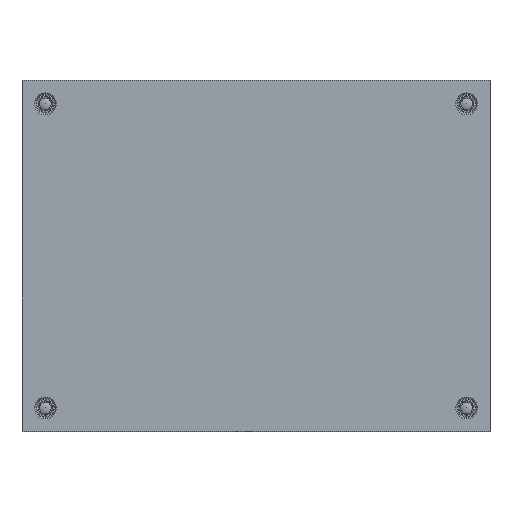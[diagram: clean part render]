
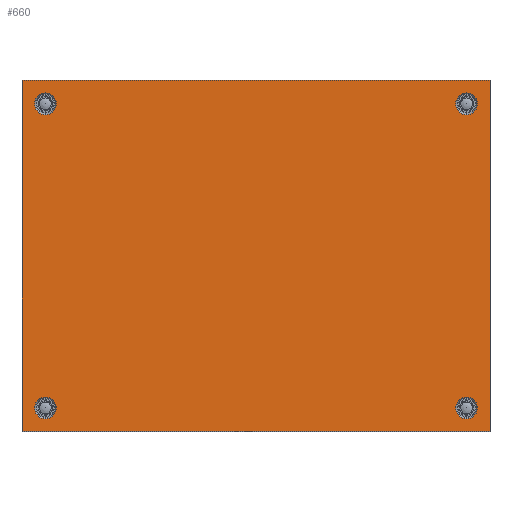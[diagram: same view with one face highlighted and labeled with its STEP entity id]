
A CAD part, top view. The second image highlights one B-rep face of the part: STEP entity #660.
In plain terms, the highlighted planar face has unit normal (0, 0, 1).
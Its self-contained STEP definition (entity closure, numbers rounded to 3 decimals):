
#660 = ADVANCED_FACE( '', ( #1380, #1381, #1382, #1383, #1384 ), #1385, .F. );
#1380 = FACE_BOUND( '', #2118, .T. );
#1381 = FACE_BOUND( '', #2119, .T. );
#1382 = FACE_BOUND( '', #2120, .T. );
#1383 = FACE_BOUND( '', #2121, .T. );
#1384 = FACE_OUTER_BOUND( '', #2122, .T. );
#1385 = PLANE( '', #2123 );
#2118 = EDGE_LOOP( '', ( #3642 ) );
#2119 = EDGE_LOOP( '', ( #3643 ) );
#2120 = EDGE_LOOP( '', ( #3644 ) );
#2121 = EDGE_LOOP( '', ( #3645 ) );
#2122 = EDGE_LOOP( '', ( #3646, #3647, #3648, #3649 ) );
#2123 = AXIS2_PLACEMENT_3D( '', #3650, #3651, #3652 );
#3642 = ORIENTED_EDGE( '', *, *, #4452, .T. );
#3643 = ORIENTED_EDGE( '', *, *, #4320, .T. );
#3644 = ORIENTED_EDGE( '', *, *, #4498, .T. );
#3645 = ORIENTED_EDGE( '', *, *, #4006, .T. );
#3646 = ORIENTED_EDGE( '', *, *, #4191, .T. );
#3647 = ORIENTED_EDGE( '', *, *, #4109, .F. );
#3648 = ORIENTED_EDGE( '', *, *, #4490, .F. );
#3649 = ORIENTED_EDGE( '', *, *, #4226, .T. );
#3650 = CARTESIAN_POINT( '', ( -200., 150., 0. ) );
#3651 = DIRECTION( '', ( 0., 0., -1. ) );
#3652 = DIRECTION( '', ( -1., 0., 0. ) );
#4006 = EDGE_CURVE( '', #4705, #4705, #4706, .T. );
#4109 = EDGE_CURVE( '', #4872, #4867, #4874, .T. );
#4191 = EDGE_CURVE( '', #5004, #4867, #5007, .T. );
#4226 = EDGE_CURVE( '', #5063, #5004, #5064, .T. );
#4320 = EDGE_CURVE( '', #5200, #5200, #5201, .T. );
#4452 = EDGE_CURVE( '', #5376, #5376, #5377, .T. );
#4490 = EDGE_CURVE( '', #5063, #4872, #5425, .T. );
#4498 = EDGE_CURVE( '', #5433, #5433, #5434, .T. );
#4705 = VERTEX_POINT( '', #5679 );
#4706 = CIRCLE( '', #5680, 9.3 );
#4867 = VERTEX_POINT( '', #5906 );
#4872 = VERTEX_POINT( '', #5913 );
#4874 = LINE( '', #5916, #5917 );
#5004 = VERTEX_POINT( '', #6095 );
#5007 = LINE( '', #6100, #6101 );
#5063 = VERTEX_POINT( '', #6172 );
#5064 = LINE( '', #6173, #6174 );
#5200 = VERTEX_POINT( '', #6362 );
#5201 = CIRCLE( '', #6363, 9.3 );
#5376 = VERTEX_POINT( '', #6591 );
#5377 = CIRCLE( '', #6592, 9.3 );
#5425 = LINE( '', #6656, #6657 );
#5433 = VERTEX_POINT( '', #6667 );
#5434 = CIRCLE( '', #6668, 9.3 );
#5679 = CARTESIAN_POINT( '', ( 170.7, 130., 0. ) );
#5680 = AXIS2_PLACEMENT_3D( '', #6882, #6883, #6884 );
#5906 = CARTESIAN_POINT( '', ( 200., -150., 0. ) );
#5913 = CARTESIAN_POINT( '', ( 200., 150., 0. ) );
#5916 = CARTESIAN_POINT( '', ( 200., 150., 0. ) );
#5917 = VECTOR( '', #6995, 1000. );
#6095 = CARTESIAN_POINT( '', ( -200., -150., 0. ) );
#6100 = CARTESIAN_POINT( '', ( -200., -150., 0. ) );
#6101 = VECTOR( '', #7085, 1000. );
#6172 = CARTESIAN_POINT( '', ( -200., 150., 0. ) );
#6173 = CARTESIAN_POINT( '', ( -200., 150., 0. ) );
#6174 = VECTOR( '', #7131, 1000. );
#6362 = CARTESIAN_POINT( '', ( 170.7, -130., 0. ) );
#6363 = AXIS2_PLACEMENT_3D( '', #7238, #7239, #7240 );
#6591 = CARTESIAN_POINT( '', ( -189.3, 130., 0. ) );
#6592 = AXIS2_PLACEMENT_3D( '', #7378, #7379, #7380 );
#6656 = CARTESIAN_POINT( '', ( -200., 150., 0. ) );
#6657 = VECTOR( '', #7418, 1000. );
#6667 = CARTESIAN_POINT( '', ( -189.3, -130., 0. ) );
#6668 = AXIS2_PLACEMENT_3D( '', #7421, #7422, #7423 );
#6882 = CARTESIAN_POINT( '', ( 180., 130., 0. ) );
#6883 = DIRECTION( '', ( 0., 0., -1. ) );
#6884 = DIRECTION( '', ( -1., 0., 0. ) );
#6995 = DIRECTION( '', ( 0., -1., 0. ) );
#7085 = DIRECTION( '', ( 1., 0., 0. ) );
#7131 = DIRECTION( '', ( 0., -1., 0. ) );
#7238 = CARTESIAN_POINT( '', ( 180., -130., 0. ) );
#7239 = DIRECTION( '', ( 0., 0., -1. ) );
#7240 = DIRECTION( '', ( -1., 0., 0. ) );
#7378 = CARTESIAN_POINT( '', ( -180., 130., 0. ) );
#7379 = DIRECTION( '', ( 0., 0., -1. ) );
#7380 = DIRECTION( '', ( -1., 0., 0. ) );
#7418 = DIRECTION( '', ( 1., 0., 0. ) );
#7421 = CARTESIAN_POINT( '', ( -180., -130., 0. ) );
#7422 = DIRECTION( '', ( 0., 0., -1. ) );
#7423 = DIRECTION( '', ( -1., 0., 0. ) );
